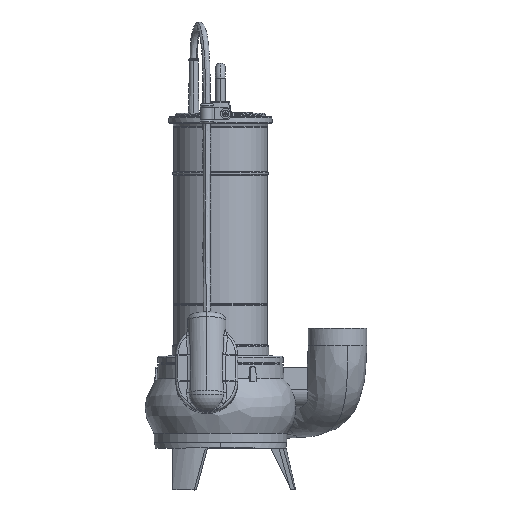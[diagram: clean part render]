
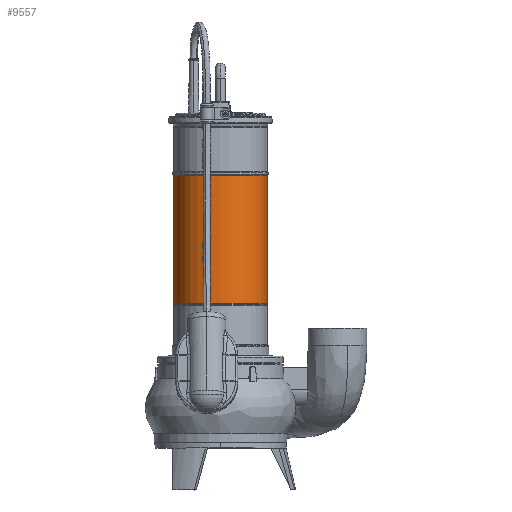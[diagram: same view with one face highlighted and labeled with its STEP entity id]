
A CAD part, top view. The second image highlights one B-rep face of the part: STEP entity #9557.
In plain terms, the highlighted cylindrical face has radius 56 mm (diameter 112 mm), a partial arc.
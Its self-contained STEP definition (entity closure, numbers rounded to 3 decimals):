
#575 = VERTEX_POINT ( 'NONE', #9800 ) ;
#1177 = AXIS2_PLACEMENT_3D ( 'NONE', #9815, #23029, #19133 ) ;
#1435 = DIRECTION ( 'NONE',  ( 0., 1., 0. ) ) ;
#3266 = CARTESIAN_POINT ( 'NONE',  ( -56., 325.704, 0. ) ) ;
#5097 = DIRECTION ( 'NONE',  ( 0., -1., 0. ) ) ;
#5342 = DIRECTION ( 'NONE',  ( -1., 0., 0. ) ) ;
#5673 = ORIENTED_EDGE ( 'NONE', *, *, #11447, .F. ) ;
#6194 = VERTEX_POINT ( 'NONE', #11130 ) ;
#6221 = AXIS2_PLACEMENT_3D ( 'NONE', #20541, #17019, #18526 ) ;
#7008 = ORIENTED_EDGE ( 'NONE', *, *, #13669, .T. ) ;
#7484 = CARTESIAN_POINT ( 'NONE',  ( 0., 325.704, 0. ) ) ;
#8761 = EDGE_CURVE ( 'NONE', #21725, #575, #11027, .T. ) ;
#9557 = ADVANCED_FACE ( 'NONE', ( #11466 ), #15483, .T. ) ;
#9800 = CARTESIAN_POINT ( 'NONE',  ( 56., 172.5, 0. ) ) ;
#9815 = CARTESIAN_POINT ( 'NONE',  ( 0., 402.63, 0. ) ) ;
#11027 = LINE ( 'NONE', #13031, #13280 ) ;
#11130 = CARTESIAN_POINT ( 'NONE',  ( -56., 172.5, 0. ) ) ;
#11447 = EDGE_CURVE ( 'NONE', #575, #6194, #16671, .T. ) ;
#11466 = FACE_OUTER_BOUND ( 'NONE', #23160, .T. ) ;
#11665 = CARTESIAN_POINT ( 'NONE',  ( 56., 325.704, 0. ) ) ;
#12299 = CIRCLE ( 'NONE', #22320, 56. ) ;
#12597 = DIRECTION ( 'NONE',  ( 0., -1., 0. ) ) ;
#13031 = CARTESIAN_POINT ( 'NONE',  ( 56., 325.704, 0. ) ) ;
#13280 = VECTOR ( 'NONE', #5097, 1000. ) ;
#13669 = EDGE_CURVE ( 'NONE', #21919, #6194, #18490, .T. ) ;
#15483 = CYLINDRICAL_SURFACE ( 'NONE', #1177, 56. ) ;
#15922 = ORIENTED_EDGE ( 'NONE', *, *, #20437, .F. ) ;
#16671 = CIRCLE ( 'NONE', #6221, 56. ) ;
#17019 = DIRECTION ( 'NONE',  ( 0., -1., 0. ) ) ;
#17442 = VECTOR ( 'NONE', #12597, 1000. ) ;
#18490 = LINE ( 'NONE', #3266, #17442 ) ;
#18526 = DIRECTION ( 'NONE',  ( 1., 0., 0. ) ) ;
#19133 = DIRECTION ( 'NONE',  ( -1., 0., 0. ) ) ;
#19419 = ORIENTED_EDGE ( 'NONE', *, *, #8761, .F. ) ;
#20437 = EDGE_CURVE ( 'NONE', #21919, #21725, #12299, .T. ) ;
#20541 = CARTESIAN_POINT ( 'NONE',  ( 0., 172.5, 0. ) ) ;
#21725 = VERTEX_POINT ( 'NONE', #11665 ) ;
#21919 = VERTEX_POINT ( 'NONE', #22069 ) ;
#22069 = CARTESIAN_POINT ( 'NONE',  ( -56., 325.704, 0. ) ) ;
#22320 = AXIS2_PLACEMENT_3D ( 'NONE', #7484, #1435, #5342 ) ;
#23029 = DIRECTION ( 'NONE',  ( 0., -1., 0. ) ) ;
#23160 = EDGE_LOOP ( 'NONE', ( #19419, #15922, #7008, #5673 ) ) ;
